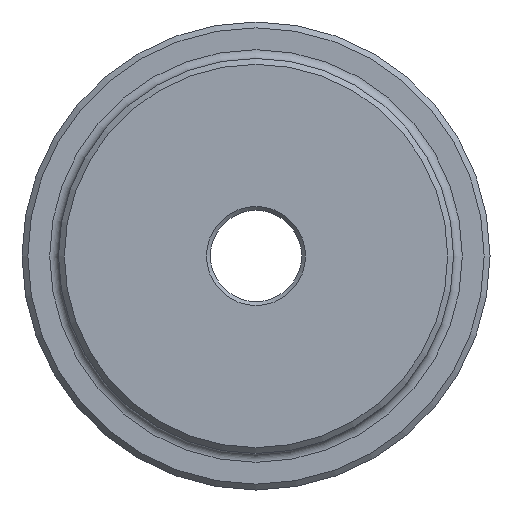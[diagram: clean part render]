
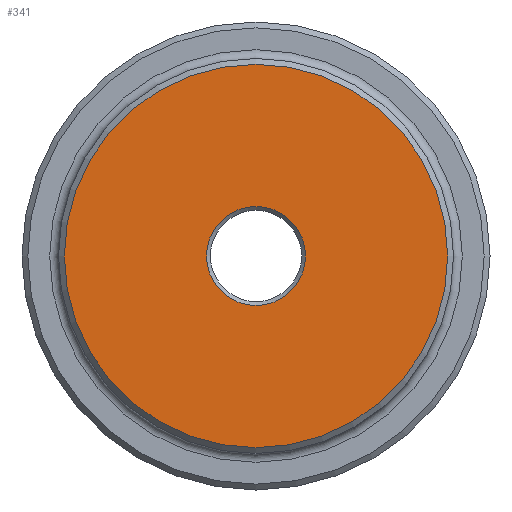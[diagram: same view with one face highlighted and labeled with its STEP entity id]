
A CAD part, left-side view. The second image highlights one B-rep face of the part: STEP entity #341.
In plain terms, the highlighted planar face has unit normal (-1, 0, 0).
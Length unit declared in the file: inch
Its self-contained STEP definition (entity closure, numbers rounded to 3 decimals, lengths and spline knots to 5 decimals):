
#132 = DIRECTION ( 'NONE',  ( 1., 0., 0. ) ) ;
#341 = ADVANCED_FACE ( 'NONE', ( #731, #2010 ), #2232, .F. ) ;
#370 = AXIS2_PLACEMENT_3D ( 'NONE', #940, #2288, #1562 ) ;
#396 = EDGE_CURVE ( 'NONE', #997, #997, #816, .T. ) ;
#465 = DIRECTION ( 'NONE',  ( 0., 0., -1. ) ) ;
#466 = ORIENTED_EDGE ( 'NONE', *, *, #539, .T. ) ;
#520 = EDGE_LOOP ( 'NONE', ( #2032 ) ) ;
#539 = EDGE_CURVE ( 'NONE', #2214, #2214, #1188, .T. ) ;
#731 = FACE_BOUND ( 'NONE', #520, .T. ) ;
#816 = CIRCLE ( 'NONE', #914, 0.5089 ) ;
#889 = DIRECTION ( 'NONE',  ( 1., 0., 0. ) ) ;
#914 = AXIS2_PLACEMENT_3D ( 'NONE', #2074, #889, #465 ) ;
#940 = CARTESIAN_POINT ( 'NONE',  ( 0., 0., 0. ) ) ;
#997 = VERTEX_POINT ( 'NONE', #1187 ) ;
#1092 = EDGE_LOOP ( 'NONE', ( #466 ) ) ;
#1187 = CARTESIAN_POINT ( 'NONE',  ( 0., 0., -0.5089 ) ) ;
#1188 = CIRCLE ( 'NONE', #370, 1.97 ) ;
#1418 = CARTESIAN_POINT ( 'NONE',  ( 0., 0., -1.97 ) ) ;
#1562 = DIRECTION ( 'NONE',  ( 0., 0., -1. ) ) ;
#1737 = AXIS2_PLACEMENT_3D ( 'NONE', #1974, #132, #1804 ) ;
#1804 = DIRECTION ( 'NONE',  ( 0., 0., -1. ) ) ;
#1974 = CARTESIAN_POINT ( 'NONE',  ( 0., 0., 0. ) ) ;
#2010 = FACE_OUTER_BOUND ( 'NONE', #1092, .T. ) ;
#2032 = ORIENTED_EDGE ( 'NONE', *, *, #396, .T. ) ;
#2074 = CARTESIAN_POINT ( 'NONE',  ( 0., 0., 0. ) ) ;
#2214 = VERTEX_POINT ( 'NONE', #1418 ) ;
#2232 = PLANE ( 'NONE',  #1737 ) ;
#2288 = DIRECTION ( 'NONE',  ( -1., 0., 0. ) ) ;
